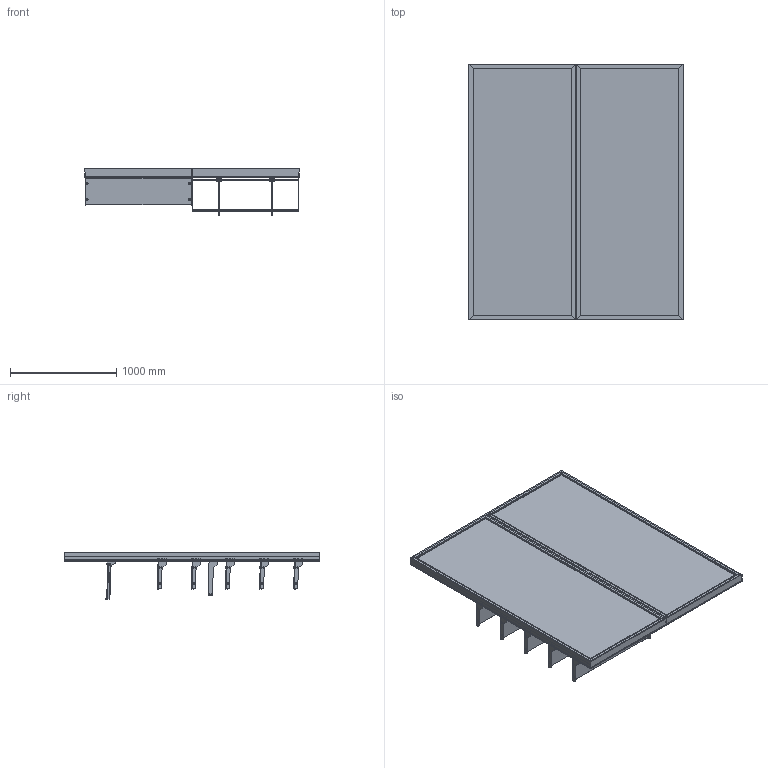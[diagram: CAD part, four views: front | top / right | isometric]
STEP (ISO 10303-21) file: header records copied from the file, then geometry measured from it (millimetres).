
FILE_DESCRIPTION (( 'STEP AP203' ), '1' );
FILE_NAME ('High-Capacity Clothing & Glass Shoe Display Wall (Config 2).STEP', '2026-03-31T10:32:55', ( '' ), ( '' ), 'SwSTEP 2.0', 'SolidWorks 2025', '' );
FILE_SCHEMA (( 'CONFIG_CONTROL_DESIGN' ));
Length unit declared in the file: millimetre
Products named in the file (26): 0001-31-SA25 - 1005W Side Facing D Rail_Assem9; High-Capacity Clothing & Glass Shoe Display Wall (Config 2); 0001-31-GA10 - 1005W Slotted upbright; Wide Illuminated Glass Shoe Shop Display_Assem6; 0001-31-132.STEP; 0001-31-SA30.STEP; 0001-31-112.STEP; 0001-31-SA26 - 1005W Rear support Bar_Assem8; 0001-31-SA31 - 1005W Glass Shelf.STEP; 0001-31-123.STEP; Heavy-Duty Single Clothing Display Wall (Config 2)_Assem7; 0001-31-104.STEP; 0001-31-SA31 - 1005W Glass Shelf_Assem5; 0001-31-SA27 - Forward Facing Arm_Assem11; 0001-31-124.STEP; 0001-31-SA27 - Forward Facing Arm.STEP; 0001-31-131.STEP; 0001-31-110.STEP; 0001-31-SA25 - 1005W Side Facing D Rail.STEP; 0001-31-100.STEP; 0001-31-114.STEP; 0001-31-SA26 - 1005W Rear support Bar.STEP; 0000-31-113.STEP; 0001-31-130.STEP; 0001-31-103.STEP; 0001-31-SA29.STEP
Assembly tree (47 placements, depth 6):
  High-Capacity Clothing & Glass Shoe Display Wall (Config 2)
    Heavy-Duty Single Clothing Display Wall (Config 2)_Assem7
      0001-31-GA10 - 1005W Slotted upbright
      0001-31-SA27 - Forward Facing Arm_Assem11  x2
        0001-31-SA27 - Forward Facing Arm.STEP
          0001-31-104.STEP
          0001-31-112.STEP
          0001-31-110.STEP
      0001-31-SA25 - 1005W Side Facing D Rail_Assem9
        0001-31-SA25 - 1005W Side Facing D Rail.STEP
          0001-31-100.STEP  x2
          0001-31-130.STEP
      0001-31-SA26 - 1005W Rear support Bar_Assem8
        0001-31-SA26 - 1005W Rear support Bar.STEP
          0001-31-103.STEP  x2
          0001-31-131.STEP
    Wide Illuminated Glass Shoe Shop Display_Assem6
      0001-31-GA10 - 1005W Slotted upbright
      0001-31-SA31 - 1005W Glass Shelf_Assem5  x5
        0001-31-SA31 - 1005W Glass Shelf.STEP
          0001-31-SA29.STEP
            0000-31-113.STEP
            0001-31-114.STEP  x2
          0001-31-SA30.STEP
            0000-31-113.STEP
            0001-31-114.STEP  x2
          0001-31-132.STEP
          0001-31-124.STEP  x4
          0001-31-123.STEP  x8
Bounding box: 2011.48 x 2400 x 436.21 mm (x, y, z)
Volume: 26589201.4 mm3; surface area: 27241974.2 mm2
Topology: 119 solids, 119 shells, 3048 faces, 8822 edges, 5756 vertices
Faces by surface type: plane 2240, cylinder 728, cone 80
Entity records: 35207 total; most frequent: CARTESIAN_POINT 6050, ORIENTED_EDGE 5786, DIRECTION 4809, EDGE_CURVE 2893, VECTOR 2631, LINE 2631, VERTEX_POINT 1914, AXIS2_PLACEMENT_3D 1089
